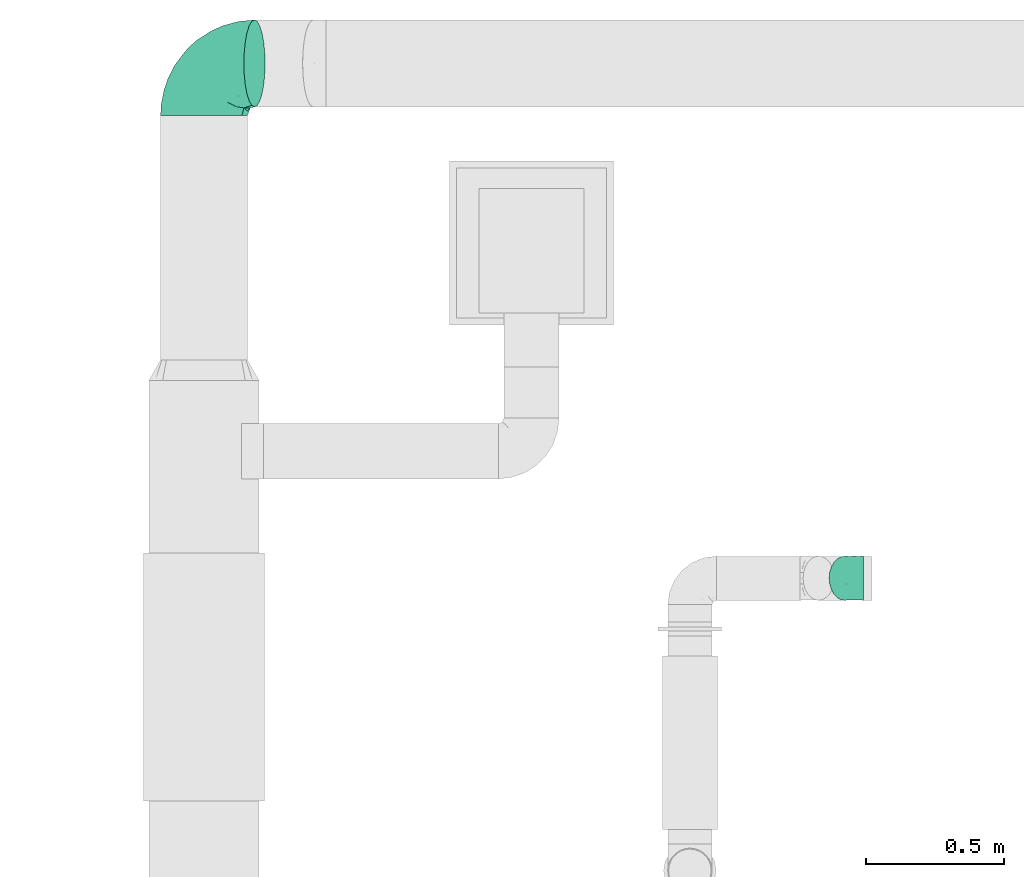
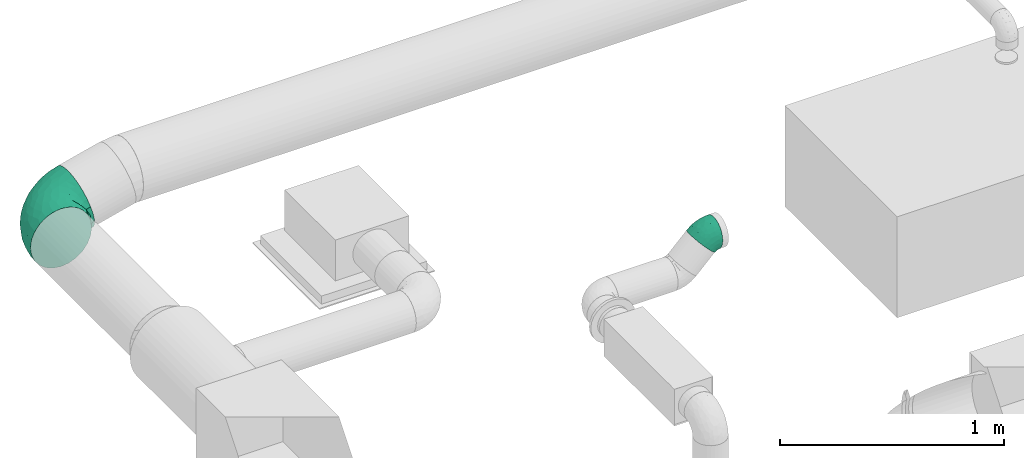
# One storey, part 12 of 16: 2 flow fittings.
"""IFC2X3 building model written with IfcOpenShell, lengths in millimetres."""

from ifc_helpers import new_model, entity, si_unit, converted_unit, derived_unit, direction, frame, origin_with_axes, place, context, subcontext, project, spatial, open_shell, surface_model, source, transform, mapped, type_object, element, save


model = new_model("IFC2X3")

# Units and contexts
model_context = context("Model", 3, precision=0.01, world=frame((0.0, 4.29681676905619e-09, 0.0)), true_north=direction((4.01073788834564e-13, 1.0)))
plan_context = context("Plan", 3, precision=0.01, world=frame((0.0, 4.29681676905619e-09, 0.0)), true_north=direction((4.01073788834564e-13, 1.0)))
body_context = subcontext(model_context, "Body", "Model", "MODEL_VIEW")
ifc_project = project(units=[converted_unit("PLANEANGLEUNIT", "DEGREE", entity("IfcPositiveLengthMeasure", 0.0174532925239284), si_unit("PLANEANGLEUNIT", "RADIAN"), dimensions=[0, 0, 0, 0, 0, 0, 0]), si_unit("AREAUNIT", "SQUARE_METRE"), si_unit("LENGTHUNIT", "METRE", prefix="MILLI"), si_unit("MASSUNIT", "GRAM", prefix="KILO"), si_unit("POWERUNIT", "WATT"), si_unit("PRESSUREUNIT", "PASCAL"), si_unit("FORCEUNIT", "NEWTON", prefix="KILO"), si_unit("ELECTRICVOLTAGEUNIT", "VOLT"), si_unit("ELECTRICCURRENTUNIT", "AMPERE"), si_unit("THERMODYNAMICTEMPERATUREUNIT", "DEGREE_CELSIUS"), si_unit("TIMEUNIT", "SECOND"), si_unit("VOLUMEUNIT", "CUBIC_METRE"), derived_unit("LINEARVELOCITYUNIT", [(si_unit("LENGTHUNIT", "METRE"), 1), (si_unit("TIMEUNIT", "SECOND"), -1)]), derived_unit("VOLUMETRICFLOWRATEUNIT", [(si_unit("VOLUMEUNIT", "CUBIC_METRE"), 1), (si_unit("TIMEUNIT", "SECOND"), -1)]), derived_unit("THERMALTRANSMITTANCEUNIT", [(si_unit("POWERUNIT", "WATT"), 1), (si_unit("THERMODYNAMICTEMPERATUREUNIT", "KELVIN"), -1), (si_unit("AREAUNIT", "SQUARE_METRE"), -1)]), derived_unit("SOUNDPRESSUREUNIT", [(si_unit("PRESSUREUNIT", "PASCAL"), 1)])], contexts=[model_context, plan_context])

# Site, building, storey
site_placement = place(None, frame((0.0, -4.29681676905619e-09, 0.0), z_axis=(0.0, 0.0, 1.0), x_axis=(1.0, 0.0, 0.0)))
site = spatial("IfcSite", under=ifc_project, at=site_placement, Name="ENGM", CompositionType="ELEMENT")
building_placement = place(site_placement, frame((0.0, 4.29681676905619e-09, 0.0), z_axis=(0.0, 0.0, 1.0), x_axis=(1.0, 0.0, 0.0)))
building = spatial("IfcBuilding", under=site, at=building_placement, Name="TH", CompositionType="ELEMENT")
storey_placement = place(building_placement, frame((0.0, 0.0, 210200.0), z_axis=(0.0, 0.0, 1.0), x_axis=(1.0, 0.0, 0.0)))
storey = spatial("IfcBuildingStorey", under=building, at=storey_placement, Name="Nivå F - 0,7 m", CompositionType="ELEMENT", Elevation=210200.0)

# Flow fittings
duct_fitting_type = type_object("IfcDuctFittingType", Name="magicirc_elbow_short_001", PredefinedType="BEND")
shared_shape_1 = source(origin_with_axes(), body_context, "Body", "SurfaceModel", [
    surface_model("IfcShellBasedSurfaceModel", [(-0.16652, 56.40202, 69.28203), (-11.88225, 68.11775, 56.56854), (-20.34085, 49.10716, 65.97743), (-16.91372, 29.58807, 75.73686), (-24.38574, 9.15622, 79.61835), (-4.70279, 11.35352, 79.88004), (-16.91372, 29.58807, -75.73686), (-4.70279, 11.35352, -79.88004), (-24.38575, 9.15621, -79.61835), (11.42317, -27.57797, -70.52797), (17.38053, -41.96031, -59.634), (-7.30321, -48.86985, -60.39638), (-11.88225, 68.11775, -56.56854), (-0.16652, 56.40202, -69.28203), (-20.34085, 49.10716, -65.97743), (-15.7878, -31.72587, -72.43572), (-26.51037, 64.00169, -51.32545), (26.5122, -63.88975, -21.40993), (27.01157, -65.21171, 0.0), (5.78765, -74.00295, 0.0), (-39.76452, 40.0, -69.28203), (-39.76452, 20.70552, -77.27406), (-39.76452, 0.0, -80.0), (-39.76452, -56.56854, -56.56854), (-39.76452, 77.27406, -20.70552), (-39.76452, 69.28203, -40.0), (-39.76452, 56.56854, -56.56854), (-39.76452, -80.0, 0.0), (-39.76452, 80.0, 0.0), (-39.76452, -40.0, -69.28203), (-39.76452, -20.70552, -77.27406), (-39.76452, -77.27406, -20.70552), (-39.76452, -69.28203, -40.0), (-39.76452, 69.28203, 40.0), (-39.76452, 77.27406, 20.70552), (-39.76452, 56.56854, 56.56854), (-39.76452, 20.70552, 77.27406), (-39.76452, 40.0, 69.28203), (-39.76452, -56.56854, 56.56854), (-39.76452, -77.27406, 20.70552), (-39.76452, -69.28203, 40.0), (-39.76452, -40.0, 69.28203), (-39.76452, -20.70552, 77.27406), (-39.76452, 0.0, 80.0), (28.11775, 28.11777, -80.0), (13.47673, 42.75878, -77.27406), (68.11776, -11.88222, -56.56854), (-20.87206, 77.10755, -40.0), (-26.52328, 82.75877, -20.70552), (84.68631, -28.45076, 0.0), (42.75877, 13.47676, -77.27406), (56.40203, -0.1665, -69.28203), (77.10756, -20.87201, -40.0), (82.75878, -26.52323, -20.70552), (-28.4508, 84.68629, 0.0), (-26.52328, 82.75877, 20.70552), (-20.87206, 77.10755, 40.0), (13.47673, 42.75878, 77.27406), (42.75877, 13.47676, 77.27406), (77.10756, -20.87201, 40.0), (82.75878, -26.52323, 20.70552), (68.11776, -11.88222, 56.56854), (56.40203, -0.1665, 69.28203), (28.11775, 28.11777, 80.0), (-19.9922, -77.39692, 0.0), (-6.79574, -72.52224, 25.82546), (10.7689, 23.71775, 79.61835), (48.23551, -56.42046, 0.0), (40.58426, -57.54968, 20.60266), (-15.7878, -31.72586, 72.43572), (-7.30322, -48.86985, 60.39638), (11.42316, -27.57797, 70.52798), (22.66406, -65.48794, 21.21823), (39.69041, -51.97397, 34.96088), (-13.40907, -11.42117, 78.65516), (33.59724, -11.2699, 72.43572), (39.72035, -29.39204, 60.39638), (56.08629, -46.47564, 25.82546), (54.75003, -35.28208, 45.55148), (17.38052, -41.96031, 59.634), (19.97905, -57.4023, 41.11616), (-13.76591, -63.66231, 45.55148), (-26.51038, 64.00169, 51.32546), (-30.93849, 74.69209, 32.86745), (17.55763, 1.40566, 78.65516), (-33.64158, 81.21793, 0.0), (34.96028, -44.40517, 49.23919), (68.86452, -40.59125, 0.0), (-0.70162, 33.68354, 76.7847), (54.75003, -35.28207, -45.55148), (39.72036, -29.39204, -60.39638), (-13.40907, -11.42118, -78.65516), (-30.93849, 74.69209, -32.86745), (-13.76591, -63.66231, -45.55148), (19.97906, -57.4023, -41.11617), (-6.79574, -72.52224, -25.82547), (17.55763, 1.40566, -78.65516), (40.78462, -50.31012, -36.83109), (32.55988, -44.95753, -50.02581), (56.08629, -46.47564, -25.82547), (-0.70163, 33.68353, -76.7847), (10.7689, 23.71774, -79.61835), (33.59724, -11.2699, -72.43572)], [open_shell([[[0, 1, 2]], [[3, 4, 5]], [[6, 7, 8]], [[9, 10, 11]], [[12, 13, 14]], [[11, 15, 9]], [[14, 16, 12]], [[17, 18, 19]], [[20, 21, 22]], [[20, 22, 23]], [[24, 25, 26]], [[26, 20, 23]], [[26, 27, 28]], [[29, 23, 30]], [[23, 22, 30]], [[31, 27, 32]], [[23, 32, 27]], [[23, 27, 26]], [[28, 24, 26]], [[33, 34, 28]], [[35, 33, 28]], [[36, 37, 35]], [[28, 36, 35]], [[38, 36, 28]], [[39, 40, 27]], [[27, 40, 38]], [[41, 42, 38]], [[42, 36, 38]], [[36, 42, 43]], [[28, 27, 38]], [[44, 45, 13]], [[46, 44, 13]], [[12, 47, 48]], [[12, 48, 13]], [[49, 13, 48]], [[50, 46, 51]], [[50, 44, 46]], [[52, 49, 53]], [[49, 52, 46]], [[13, 49, 46]], [[48, 54, 49]], [[54, 55, 56]], [[54, 56, 57]], [[1, 0, 57]], [[1, 57, 56]], [[57, 58, 49]], [[59, 60, 49]], [[61, 59, 49]], [[61, 58, 62]], [[49, 58, 61]], [[63, 58, 57]], [[57, 49, 54]], [[39, 64, 65]], [[64, 19, 65]], [[63, 57, 66]], [[18, 67, 68]], [[69, 70, 71]], [[40, 39, 65]], [[72, 68, 73]], [[42, 41, 69]], [[74, 5, 4]], [[75, 76, 62]], [[77, 59, 78]], [[62, 58, 75]], [[4, 3, 36]], [[36, 43, 4]], [[71, 79, 76]], [[80, 70, 81]], [[35, 37, 2]], [[40, 65, 81]], [[82, 33, 35]], [[34, 33, 83]], [[84, 74, 71]], [[34, 85, 28]], [[73, 78, 86]], [[81, 70, 38]], [[70, 69, 41]], [[63, 66, 84]], [[76, 61, 62]], [[43, 42, 74]], [[63, 84, 58]], [[78, 61, 76]], [[77, 60, 59]], [[41, 38, 70]], [[78, 59, 61]], [[34, 83, 55]], [[77, 87, 60]], [[75, 84, 71]], [[38, 40, 81]], [[86, 78, 76]], [[55, 85, 34]], [[80, 81, 65]], [[54, 85, 55]], [[84, 75, 58]], [[83, 56, 55]], [[79, 71, 70]], [[1, 82, 2]], [[69, 74, 42]], [[83, 82, 56]], [[37, 36, 3]], [[2, 88, 0]], [[88, 2, 3]], [[74, 84, 5]], [[76, 75, 71]], [[2, 82, 35]], [[39, 27, 64]], [[74, 69, 71]], [[87, 77, 67]], [[87, 49, 60]], [[1, 56, 82]], [[72, 19, 18]], [[73, 68, 77]], [[82, 83, 33]], [[74, 4, 43]], [[5, 66, 88]], [[3, 2, 37]], [[88, 66, 57]], [[84, 66, 5]], [[0, 88, 57]], [[5, 88, 3]], [[70, 80, 79]], [[86, 79, 80]], [[79, 86, 76]], [[73, 86, 80]], [[73, 80, 72]], [[78, 73, 77]], [[80, 65, 72]], [[19, 72, 65]], [[18, 68, 72]], [[67, 77, 68]], [[46, 89, 90]], [[51, 46, 90]], [[14, 6, 20]], [[30, 22, 91]], [[25, 92, 16]], [[93, 94, 95]], [[14, 26, 16]], [[44, 50, 96]], [[89, 97, 98]], [[94, 17, 95]], [[92, 24, 48]], [[95, 64, 31]], [[91, 15, 30]], [[52, 99, 89]], [[31, 32, 95]], [[23, 29, 11]], [[93, 32, 23]], [[53, 49, 87]], [[15, 29, 30]], [[45, 100, 13]], [[91, 96, 9]], [[97, 89, 99]], [[24, 28, 85]], [[64, 95, 19]], [[85, 54, 48]], [[95, 32, 93]], [[48, 47, 92]], [[26, 14, 20]], [[93, 23, 11]], [[101, 100, 45]], [[29, 15, 11]], [[8, 91, 22]], [[25, 16, 26]], [[46, 52, 89]], [[8, 22, 21]], [[102, 50, 51]], [[45, 44, 101]], [[17, 67, 18]], [[9, 102, 90]], [[95, 17, 19]], [[7, 101, 96]], [[99, 53, 87]], [[102, 96, 50]], [[99, 87, 67]], [[94, 93, 11]], [[15, 91, 9]], [[52, 53, 99]], [[10, 9, 90]], [[96, 91, 7]], [[90, 102, 51]], [[85, 48, 24]], [[96, 102, 9]], [[64, 27, 31]], [[47, 12, 16]], [[17, 94, 97]], [[16, 92, 47]], [[24, 92, 25]], [[21, 20, 6]], [[91, 8, 7]], [[21, 6, 8]], [[14, 13, 100]], [[96, 101, 44]], [[100, 7, 6]], [[7, 100, 101]], [[100, 6, 14]], [[94, 98, 97]], [[94, 11, 10]], [[99, 67, 17]], [[94, 10, 98]], [[99, 17, 97]], [[10, 90, 98]], [[89, 98, 90]]])]),
])
flow_fitting_1_placement = place(storey_placement, frame((898909.48518, 484469.03742, 2850.74776), z_axis=(0.0, -1.0, 0.0), x_axis=(-1.0, 0.0, 0.0)))
element("IfcFlowFitting", 1, at=flow_fitting_1_placement, inside=storey, type_object=duct_fitting_type, Name="magicirc_elbow_short_001", context=body_context, shape_type="MappedRepresentation", body=[
    mapped(shared_shape_1, transform((0.0, 0.0, 0.0), scale=1.0)),
])
shared_shape_2 = source(origin_with_axes(), body_context, "Body", "SurfaceModel", [
    surface_model("IfcShellBasedSurfaceModel", [(-189.0, 78.75, -136.39901), (-189.0, 40.764, -152.13332), (-189.0, 0.0, -157.5), (-189.0, 111.36932, -111.36932), (-189.0, 152.13332, -40.764), (-189.0, 136.39901, -78.75), (-189.0, -152.13332, 40.764), (-189.0, -152.13332, -40.764), (-189.0, -78.75, -136.39901), (-189.0, -111.36932, -111.36932), (-189.0, -40.764, -152.13332), (-189.0, -136.39901, -78.75), (-189.0, -157.5, 0.0), (-189.0, 111.36932, 111.36932), (-189.0, 152.13332, 40.764), (-189.0, 136.39901, 78.75), (-189.0, 78.75, 136.39901), (-189.0, -111.36932, 111.36932), (-189.0, 40.764, 152.13332), (-189.0, -136.39901, 78.75), (-189.0, -78.75, 136.39901), (-189.0, -40.764, 152.13332), (-189.0, 0.0, 157.5), (-189.0, 157.5, 0.0), (0.0, 189.0, -157.5), (-40.764, 189.0, -152.13332), (-78.75, 189.0, -136.39901), (-111.36932, 189.0, -111.36932), (-136.39901, 189.0, -78.75), (-152.13332, 189.0, -40.764), (152.13332, 189.0, 40.764), (152.13332, 189.0, -40.764), (40.764, 189.0, -152.13332), (111.36932, 189.0, -111.36932), (78.75, 189.0, -136.39901), (136.39901, 189.0, -78.75), (157.5, 189.0, 0.0), (-152.13332, 189.0, 40.764), (-111.36932, 189.0, 111.36932), (-136.39901, 189.0, 78.75), (-78.75, 189.0, 136.39901), (-40.764, 189.0, 152.13332), (111.36932, 189.0, 111.36932), (136.39901, 189.0, 78.75), (40.764, 189.0, 152.13332), (78.75, 189.0, 136.39901), (0.0, 189.0, 157.5), (-157.5, 189.0, 0.0), (-146.82647, -148.73404, 43.55813), (-152.53698, -154.30989, 0.0), (-128.83091, -152.23588, 0.0), (49.033, 86.74286, 141.05575), (73.96756, 50.08962, 114.25948), (80.71898, 84.48868, 121.46737), (93.7561, -8.98795, 0.0), (68.80167, -29.22878, 51.72126), (76.4344, -33.72591, 0.0), (-97.37792, -140.80841, 36.13658), (-99.66046, -144.41969, 0.0), (-85.08944, 153.36086, 136.16868), (-70.49002, -136.60349, 0.0), (-52.11329, -124.77074, 36.00089), (-140.73024, -35.43399, 152.18621), (-160.5858, -130.32816, 86.54689), (-138.12227, -106.88194, 111.51409), (-121.65457, -76.11965, 132.88842), (-160.87463, -69.15915, 140.74672), (-25.25045, -109.00671, 44.67122), (-15.75, -111.0778, 0.0), (8.98795, -93.7561, 0.0), (35.48323, 140.48111, 152.15935), (-105.77141, -98.25391, 112.65537), (-125.05707, 110.33905, 130.87226), (-118.33723, 141.04327, 118.63047), (-140.45256, 132.57189, 108.08216), (-84.20627, -128.87676, 59.80247), (-42.24478, 37.80735, 155.99735), (-76.09851, 23.47671, 157.08968), (-21.97676, 5.08153, 145.85286), (-148.3241, 46.79067, 152.04619), (-141.07596, 83.6671, 139.4155), (-169.61846, 88.65571, 131.42231), (-149.86377, 7.0178, 157.47409), (-164.24817, 142.27922, 79.21812), (-38.90905, -74.51537, 108.39982), (-21.51185, -31.1381, 130.88448), (-78.48781, -47.09871, 140.242), (-158.04301, 118.06714, 111.13197), (-161.49592, 161.49592, 47.69938), (-173.25, 161.7202, 0.0), (-71.14672, 117.54032, 148.95444), (-48.53381, 80.38159, 157.08422), (-38.0499, 105.94603, 156.61108), (-107.82752, -27.46831, 151.74483), (25.98079, -68.52928, 57.91101), (-2.49207, -89.842, 57.91101), (18.17919, -85.25948, 29.47632), (106.91243, 137.86518, 111.44051), (107.98856, 76.77233, 91.09139), (132.43407, 110.53889, 68.40105), (98.22703, 106.22366, 112.80306), (49.87623, -56.82814, 34.06048), (76.2184, 120.66886, 132.67152), (69.30601, 160.29705, 140.64149), (148.73404, 146.82647, 43.55813), (136.44937, 149.61971, 74.39319), (141.15744, 96.23303, 33.28536), (154.30989, 152.53698, 0.0), (-79.14709, -78.07857, 121.85468), (-142.50673, 156.96891, 85.08305), (-6.25371, 146.56094, 157.49386), (-119.18069, 168.29594, 106.34604), (-7.7712, 37.9551, 150.34868), (-161.7202, 173.25, 0.0), (20.73863, 22.80421, 136.4838), (45.79638, 11.43074, 117.05167), (46.64669, 45.96804, 131.51649), (17.71633, 115.68288, 154.55145), (-44.71298, 135.75281, 153.51583), (124.10348, 54.99065, 42.78832), (19.23744, 59.23612, 147.07076), (-59.757, 189.0, 144.26616), (-40.39445, 162.15387, 152.84988), (-106.89705, 54.01286, 154.41806), (42.62384, -42.62385, 74.87208), (-103.67825, -119.29128, 87.6164), (-122.10302, -132.77719, 72.81501), (-74.73976, -107.05822, 91.29409), (-58.68494, -13.38955, 148.76775), (-33.42967, -98.98136, 75.3332), (-12.93373, -80.09293, 85.03047), (-57.45365, -116.48754, 64.67941), (144.41969, 99.66046, 0.0), (63.28555, -3.7111, 91.11734), (26.66288, -18.86236, 112.20397), (-88.20665, 88.20664, 150.49261), (-99.84608, 118.68975, 138.24779), (89.842, 2.49207, 57.91101), (107.83801, 32.48682, 57.64226), (89.5215, 29.9536, 86.32806), (103.18655, 7.97929, 29.47632), (-17.27408, 120.20724, 157.449), (136.60349, 70.49002, 0.0), (4.52175, -58.17888, 95.91834), (-25.69452, 61.39509, 156.43932), (-0.8953, 89.70214, 155.70588), (-71.774, 57.87122, 156.95328), (111.0778, 15.75, 0.0), (123.84065, 43.12001, 0.0), (-128.59823, 21.61394, 157.11194), (-102.54228, 0.8839, 156.46427), (-43.12001, -123.84065, 0.0), (152.23588, 128.83091, 0.0), (33.72591, -76.4344, 0.0), (55.08015, -55.08015, 0.0), (3.04001, -8.98392, 131.40941), (-149.37334, 6.90093, -157.47789), (-127.65053, 19.54445, -157.25505), (-101.63434, 0.86217, -156.41758), (-149.881, 117.88366, -114.79529), (-168.97769, 112.18181, -113.09611), (-171.44166, 138.11591, -80.8385), (-97.65829, -53.6841, -140.93797), (-128.71073, -75.30605, -134.41229), (-142.28639, -35.12049, -152.3525), (-14.53623, 14.53621, -146.53876), (19.21591, -10.56392, -122.16443), (-32.58138, -35.5269, -132.82409), (-189.0, -59.757, -144.26616), (-158.69814, -78.71922, -135.41598), (-161.49592, 161.49592, -47.69938), (-27.84596, 112.602, -157.13925), (-46.89661, 87.05932, -156.86637), (-54.76208, 116.09995, -153.27291), (24.54996, -65.39931, -65.68692), (62.53428, -39.64599, -45.03474), (42.35247, -61.80031, -40.474), (-85.22006, 154.17109, -135.94475), (-68.67661, 39.77392, -157.47698), (-96.27985, 86.46587, -149.09616), (-189.0, 59.757, -144.26616), (-164.33677, 41.04681, -152.5937), (-56.04714, 0.71063, -151.93473), (106.68579, 139.72934, -111.97263), (108.82999, 81.61939, -92.33309), (90.16092, 95.61076, -117.0636), (-143.49405, 167.03036, -75.05192), (-154.59868, 143.86665, -85.53345), (-146.82647, -148.73404, -43.55813), (-139.72934, -106.68579, -111.97263), (-109.30616, -96.88101, -114.84542), (-154.17109, 85.22006, -135.94475), (-122.7277, 106.27562, -133.8534), (-97.06108, 118.571, -139.46376), (-124.29608, 79.85164, -144.73443), (-149.61972, -136.44937, -74.39319), (-96.23303, -141.15744, -33.28536), (-54.06704, -123.39932, -43.77526), (-110.5389, -132.43407, -68.40105), (-135.48821, 131.24593, -112.46181), (75.91681, 64.4352, -118.50759), (-107.08066, 157.86996, -120.54603), (32.57609, 42.69927, -137.66346), (59.9817, 10.07153, -104.76193), (75.30605, 128.71071, -134.41229), (53.6841, 97.65827, -140.93797), (35.1205, 142.28638, -152.3525), (-45.33369, 140.10537, -153.03377), (-41.04681, 164.33677, -152.5937), (-59.757, 189.0, -144.26616), (-189.0, 123.88416, -95.05966), (-6.90093, 149.37331, -157.47789), (101.88085, 6.10023, -30.06201), (83.56153, -18.18278, -35.84847), (88.95677, 3.68958, -61.33662), (-73.96886, 100.59351, -151.25205), (78.71922, 158.69814, -135.41597), (59.757, 189.0, -144.26616), (94.06788, 40.28144, -87.79988), (107.297, 31.95277, -58.22044), (148.73404, 146.82647, -43.55813), (136.44937, 149.61971, -74.39319), (25.69513, 78.83868, -148.56019), (52.78982, 64.18559, -133.79037), (141.15744, 96.23303, -33.28536), (123.39931, 54.06704, -43.77527), (-99.67042, 56.5784, -154.75725), (-81.6194, -108.82999, -92.33309), (-140.10539, 45.33368, -153.03377), (-64.43522, -75.91682, -118.50759), (-62.75607, -51.57693, -134.04781), (-14.17822, -66.28312, -101.5314), (65.05234, -15.13826, -77.86444), (37.80166, -37.80167, -86.30899), (132.43407, 110.53889, -68.40105), (16.73141, 123.34849, -155.1767), (-0.86217, 101.63431, -156.41758), (-125.84608, 166.17885, -99.79484), (-118.31036, 141.35192, -118.49872), (-13.21391, 58.80011, -154.66423), (-36.36222, 37.14521, -155.28703), (-112.79208, -24.56514, -152.90791), (-39.63577, -93.47058, -88.13749), (-6.61847, -102.14217, -30.33919), (-32.26173, -107.24999, -58.68616), (-135.56345, 151.20073, -97.68664), (-3.68958, -88.95677, -61.33662), (-0.69072, -39.04419, -115.81001), (-77.00417, -27.43387, -147.69846), (21.29912, -81.73119, -33.87707), (-189.0, 144.26616, -59.757)], [open_shell([[[0, 1, 2]], [[3, 0, 2]], [[4, 5, 3]], [[6, 3, 2]], [[6, 2, 7]], [[8, 9, 10]], [[7, 10, 9]], [[11, 7, 9]], [[7, 2, 10]], [[12, 6, 7]], [[3, 6, 4]], [[13, 14, 4]], [[15, 14, 13]], [[16, 13, 6]], [[4, 6, 13]], [[17, 18, 16]], [[19, 17, 6]], [[17, 16, 6]], [[20, 21, 17]], [[22, 17, 21]], [[17, 22, 18]], [[23, 4, 14]], [[24, 25, 26]], [[24, 26, 27]], [[27, 28, 29]], [[24, 27, 30]], [[31, 24, 30]], [[32, 33, 34]], [[33, 32, 31]], [[33, 31, 35]], [[32, 24, 31]], [[31, 30, 36]], [[29, 30, 27]], [[29, 37, 38]], [[38, 37, 39]], [[30, 38, 40]], [[38, 30, 29]], [[40, 41, 42]], [[30, 42, 43]], [[30, 40, 42]], [[42, 44, 45]], [[44, 42, 46]], [[41, 46, 42]], [[37, 29, 47]], [[48, 49, 50]], [[51, 52, 53]], [[54, 55, 56]], [[48, 6, 49]], [[57, 48, 58]], [[40, 38, 59]], [[57, 60, 61]], [[21, 62, 22]], [[63, 17, 19]], [[64, 65, 66]], [[67, 68, 69]], [[44, 46, 70]], [[48, 19, 6]], [[65, 64, 71]], [[72, 73, 74]], [[57, 61, 75]], [[76, 77, 78]], [[17, 64, 20]], [[79, 80, 81]], [[82, 18, 22]], [[62, 21, 66]], [[15, 83, 14]], [[84, 85, 86]], [[13, 87, 15]], [[88, 23, 14]], [[23, 88, 89]], [[90, 91, 92]], [[62, 86, 93]], [[16, 81, 13]], [[94, 95, 96]], [[47, 88, 37]], [[97, 98, 99]], [[66, 21, 20]], [[53, 98, 100]], [[94, 96, 101]], [[102, 70, 51]], [[44, 103, 45]], [[45, 97, 42]], [[104, 105, 106]], [[103, 70, 102]], [[104, 107, 30]], [[45, 103, 97]], [[106, 105, 99]], [[104, 30, 43]], [[108, 65, 71]], [[88, 83, 109]], [[46, 41, 110]], [[109, 111, 39]], [[87, 83, 15]], [[78, 112, 76]], [[100, 97, 102]], [[89, 88, 113]], [[114, 115, 116]], [[113, 88, 47]], [[16, 18, 79]], [[88, 109, 37]], [[110, 70, 46]], [[70, 110, 117]], [[59, 90, 118]], [[38, 39, 111]], [[13, 81, 87]], [[99, 98, 119]], [[116, 51, 120]], [[121, 40, 122]], [[40, 59, 122]], [[80, 79, 123]], [[63, 64, 17]], [[124, 101, 55]], [[125, 126, 75]], [[105, 97, 99]], [[86, 62, 65]], [[62, 93, 82]], [[127, 108, 71]], [[86, 85, 128]], [[129, 130, 84]], [[127, 125, 131]], [[104, 106, 132]], [[124, 133, 134]], [[82, 79, 18]], [[80, 123, 135]], [[72, 87, 80]], [[83, 87, 74]], [[111, 59, 38]], [[73, 72, 136]], [[137, 138, 139]], [[55, 140, 137]], [[122, 41, 121]], [[110, 122, 141]], [[140, 138, 137]], [[106, 119, 142]], [[117, 51, 70]], [[143, 134, 85]], [[144, 120, 145]], [[135, 91, 90]], [[76, 91, 146]], [[128, 78, 77]], [[129, 127, 131]], [[94, 143, 130]], [[58, 60, 57]], [[63, 48, 126]], [[105, 104, 43]], [[119, 147, 148]], [[62, 82, 22]], [[149, 82, 150]], [[149, 123, 79]], [[146, 77, 76]], [[87, 72, 74]], [[14, 83, 88]], [[111, 109, 73]], [[37, 109, 39]], [[80, 135, 72]], [[136, 135, 90]], [[48, 50, 58]], [[61, 60, 151]], [[48, 57, 126]], [[67, 95, 129]], [[57, 75, 126]], [[132, 106, 142]], [[132, 152, 104]], [[119, 106, 99]], [[131, 75, 61]], [[75, 131, 125]], [[71, 125, 127]], [[64, 126, 125]], [[67, 131, 61]], [[131, 67, 129]], [[61, 68, 67]], [[69, 96, 67]], [[96, 153, 101]], [[153, 96, 69]], [[67, 96, 95]], [[101, 153, 154]], [[54, 140, 55]], [[101, 124, 94]], [[94, 124, 143]], [[134, 143, 124]], [[85, 84, 143]], [[55, 133, 124]], [[114, 78, 155]], [[130, 129, 95]], [[127, 129, 84]], [[139, 133, 137]], [[52, 116, 115]], [[94, 130, 95]], [[84, 130, 143]], [[56, 55, 101]], [[133, 55, 137]], [[149, 150, 77]], [[140, 54, 147]], [[138, 140, 119]], [[119, 98, 138]], [[139, 98, 52]], [[98, 139, 138]], [[133, 139, 52]], [[136, 59, 73]], [[146, 91, 135]], [[144, 76, 112]], [[145, 141, 92]], [[73, 109, 74]], [[83, 74, 109]], [[43, 42, 105]], [[97, 105, 42]], [[135, 123, 146]], [[123, 149, 77]], [[123, 77, 146]], [[128, 77, 150]], [[128, 150, 93]], [[128, 85, 78]], [[155, 78, 85]], [[112, 78, 114]], [[120, 112, 114]], [[76, 144, 91]], [[116, 120, 114]], [[117, 120, 51]], [[114, 134, 115]], [[51, 116, 52]], [[134, 133, 115]], [[52, 115, 133]], [[120, 144, 112]], [[92, 144, 145]], [[135, 136, 72]], [[59, 136, 90]], [[85, 134, 155]], [[114, 155, 134]], [[6, 12, 49]], [[107, 104, 152]], [[107, 36, 30]], [[59, 111, 73]], [[70, 103, 44]], [[97, 103, 102]], [[48, 63, 19]], [[64, 63, 126]], [[64, 66, 20]], [[62, 66, 65]], [[79, 81, 16]], [[87, 81, 80]], [[122, 59, 118]], [[141, 122, 118]], [[110, 41, 122]], [[125, 71, 64]], [[108, 127, 84]], [[84, 86, 108]], [[86, 65, 108]], [[128, 93, 86]], [[82, 93, 150]], [[53, 100, 102]], [[98, 97, 100]], [[51, 53, 102]], [[98, 53, 52]], [[92, 141, 118]], [[117, 141, 145]], [[90, 92, 118]], [[92, 91, 144]], [[141, 117, 110]], [[117, 145, 120]], [[147, 119, 140]], [[148, 142, 119]], [[79, 82, 149]], [[68, 61, 151]], [[56, 101, 154]], [[156, 157, 158]], [[159, 160, 161]], [[162, 163, 164]], [[165, 166, 167]], [[2, 1, 156]], [[168, 169, 8]], [[89, 170, 23]], [[171, 172, 173]], [[174, 175, 176]], [[26, 177, 27]], [[23, 170, 4]], [[178, 179, 172]], [[180, 0, 181]], [[178, 182, 158]], [[183, 184, 185]], [[170, 186, 187]], [[11, 188, 7]], [[189, 169, 190]], [[0, 3, 191]], [[188, 49, 7]], [[31, 36, 107]], [[179, 192, 193]], [[8, 189, 9]], [[194, 191, 192]], [[188, 195, 196]], [[168, 10, 169]], [[60, 197, 151]], [[29, 186, 170]], [[163, 169, 10]], [[195, 198, 196]], [[159, 199, 192]], [[34, 33, 183]], [[170, 89, 113]], [[200, 185, 184]], [[47, 29, 170]], [[10, 2, 164]], [[201, 27, 177]], [[202, 203, 166]], [[204, 205, 206]], [[207, 177, 26]], [[208, 209, 25]], [[161, 160, 210]], [[24, 32, 206]], [[186, 29, 28]], [[56, 154, 175]], [[24, 211, 25]], [[212, 213, 214]], [[26, 209, 208]], [[179, 193, 215]], [[34, 216, 217]], [[218, 219, 214]], [[214, 219, 212]], [[188, 196, 58]], [[32, 217, 216]], [[220, 221, 35]], [[222, 205, 223]], [[132, 224, 220]], [[147, 212, 225]], [[107, 152, 220]], [[31, 107, 220]], [[194, 179, 226]], [[189, 227, 198]], [[161, 4, 170]], [[35, 31, 220]], [[228, 181, 0]], [[204, 206, 32]], [[229, 230, 231]], [[47, 170, 113]], [[203, 232, 233]], [[227, 197, 198]], [[221, 183, 33]], [[183, 234, 184]], [[204, 185, 205]], [[211, 235, 236]], [[156, 164, 2]], [[163, 162, 229]], [[190, 229, 227]], [[195, 189, 198]], [[160, 3, 210]], [[191, 159, 192]], [[172, 215, 173]], [[237, 201, 238]], [[239, 172, 171]], [[157, 226, 158]], [[240, 172, 239]], [[178, 240, 182]], [[195, 188, 11]], [[196, 197, 60]], [[132, 142, 224]], [[220, 224, 221]], [[1, 180, 181]], [[156, 158, 241]], [[206, 211, 24]], [[211, 236, 171]], [[225, 184, 234]], [[218, 200, 184]], [[229, 190, 163]], [[212, 219, 225]], [[231, 242, 229]], [[243, 197, 244]], [[227, 242, 244]], [[243, 68, 197]], [[28, 237, 186]], [[199, 187, 245]], [[245, 186, 237]], [[5, 161, 210]], [[58, 196, 60]], [[58, 50, 188]], [[197, 196, 198]], [[220, 152, 132]], [[225, 234, 224]], [[224, 234, 221]], [[223, 205, 200]], [[205, 222, 235]], [[202, 223, 203]], [[202, 165, 239]], [[203, 200, 218]], [[166, 203, 233]], [[242, 231, 246]], [[202, 166, 165]], [[247, 233, 231]], [[162, 248, 230]], [[158, 248, 241]], [[248, 158, 182]], [[247, 231, 167]], [[174, 231, 233]], [[244, 242, 246]], [[227, 229, 242]], [[27, 237, 28]], [[245, 237, 238]], [[27, 201, 237]], [[193, 201, 177]], [[199, 245, 238]], [[187, 186, 245]], [[238, 193, 192]], [[187, 199, 159]], [[238, 192, 199]], [[192, 179, 194]], [[201, 193, 238]], [[207, 173, 177]], [[226, 179, 178]], [[228, 191, 194]], [[158, 226, 178]], [[228, 194, 226]], [[193, 177, 173]], [[172, 179, 215]], [[173, 215, 193]], [[171, 173, 207]], [[211, 171, 207]], [[171, 236, 239]], [[244, 246, 243]], [[227, 244, 197]], [[249, 243, 246]], [[249, 69, 243]], [[246, 174, 249]], [[176, 153, 249]], [[249, 174, 176]], [[154, 153, 176]], [[175, 233, 232]], [[231, 174, 246]], [[175, 174, 233]], [[69, 249, 153]], [[69, 68, 243]], [[154, 176, 175]], [[11, 9, 195]], [[189, 195, 9]], [[183, 221, 234]], [[33, 35, 221]], [[239, 236, 222]], [[240, 239, 165]], [[219, 184, 225]], [[203, 218, 214]], [[184, 219, 218]], [[225, 142, 148]], [[212, 147, 54]], [[213, 175, 232]], [[54, 213, 212]], [[213, 54, 56]], [[56, 175, 213]], [[49, 188, 50]], [[49, 12, 7]], [[4, 161, 250]], [[159, 191, 160]], [[191, 3, 160]], [[216, 204, 32]], [[34, 183, 216]], [[183, 204, 216]], [[163, 10, 164]], [[190, 169, 163]], [[189, 8, 169]], [[228, 0, 191]], [[157, 181, 228]], [[156, 1, 181]], [[208, 211, 207]], [[211, 208, 25]], [[26, 208, 207]], [[165, 167, 182]], [[229, 162, 230]], [[167, 248, 182]], [[241, 162, 164]], [[162, 241, 248]], [[156, 241, 164]], [[248, 167, 230]], [[231, 230, 167]], [[181, 157, 156]], [[226, 157, 228]], [[211, 206, 235]], [[205, 235, 206]], [[205, 185, 200]], [[183, 185, 204]], [[142, 225, 224]], [[148, 147, 225]], [[227, 189, 190]], [[197, 68, 151]], [[161, 170, 187]], [[161, 5, 250]], [[159, 161, 187]], [[203, 223, 200]], [[222, 223, 202]], [[239, 222, 202]], [[222, 236, 235]], [[203, 214, 232]], [[232, 214, 213]], [[167, 166, 247]], [[233, 247, 166]], [[182, 240, 165]], [[172, 240, 178]]])]),
])
flow_fitting_2_placement = place(storey_placement, frame((896556.49238, 486337.00187, 2637.79793999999), z_axis=(-0.243985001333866, 0.0, 0.969779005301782), x_axis=(-0.969779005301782, 0.0, -0.243985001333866)))
element("IfcFlowFitting", 2, at=flow_fitting_2_placement, inside=storey, type_object=duct_fitting_type, Name="magicirc_elbow_short_001", context=body_context, shape_type="MappedRepresentation", body=[
    mapped(shared_shape_2, transform((0.0, 0.0, 0.0), scale=1.0)),
])

save(model, "model.ifc")
